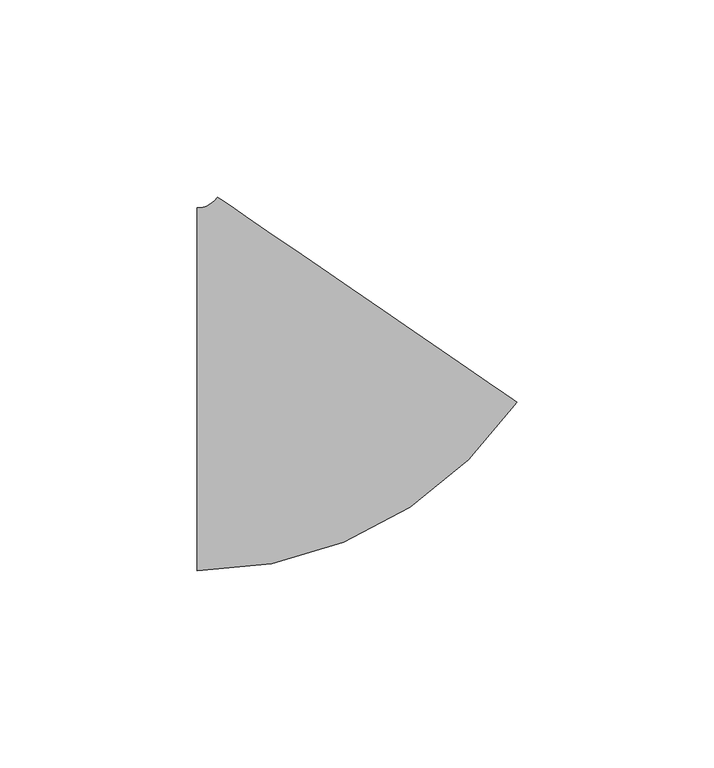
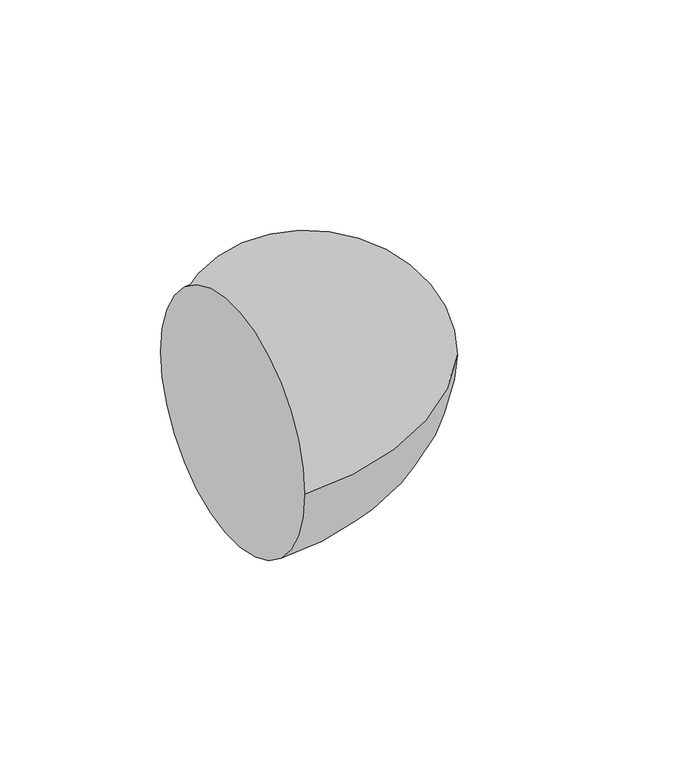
"""IFC4 building model written with IfcOpenShell, lengths in millimetres: pipe fitting geometry, M_Codo - Genérico : Estándar."""

from ifc_helpers import new_model, si_unit, point, frame, origin, place, context, project, spatial, circle_curve, ellipse_curve, trimmed, source, transform, mapped, element, save
from ifc_brep_helpers import plane_surface, revolved_surface, advanced_brep


def pipe_fitting_243cbe8d(model_context):
    return source(origin(), model_context, "Body", "AdvancedBrep", [
        advanced_brep(
        [(-27.6139621, -46.0375, 0.0), (-27.6139621, 46.0375, 0.0), (53.5864806, -3.2359549, 0.0), (-22.3752238, 48.79889, 0.0)],
        [
            (0, 1, circle_curve(frame((-27.6139621, 0.0, 0.0), z_axis=(-1.0, 0.0, 0.0), x_axis=(0.0, 1.0, 0.0)), 46.0375)),
            (1, 0, circle_curve(frame((-27.6139621, 0.0, 0.0), z_axis=(-1.0, 0.0, 0.0), x_axis=(0.0, 1.0, 0.0)), 46.0375)),
            (2, 3, circle_curve(frame((15.6056284, 22.7814676, 0.0), z_axis=(0.5651354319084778, 0.8249981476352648, 0.0), x_axis=(-0.8249981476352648, 0.5651354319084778, 0.0)), 46.0375)),
            (3, 2, circle_curve(frame((15.6056284, 22.7814676, 0.0), z_axis=(0.5651354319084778, 0.8249981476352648, 0.0), x_axis=(-0.8249981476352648, 0.5651354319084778, 0.0)), 46.0375)),
            (3, 1, circle_curve(frame((-27.6139621, 52.3875, 0.0), z_axis=(0.0, 0.0, -1.0), x_axis=(0.0, -1.0, 0.0)), 6.35)),
            (0, 2, circle_curve(frame((-27.6139621, 52.3875, 0.0), z_axis=(0.0, 0.0, 1.0), x_axis=(0.0, -1.0, 0.0)), 98.425)),
        ],
        [
            plane_surface(frame((-27.6139621, 0.0, 0.0), z_axis=(-1.0, 0.0, 0.0), x_axis=(0.0, 0.0, 1.0))),
            plane_surface(frame((15.6056284, 22.7814676, 0.0), z_axis=(0.5651354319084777, 0.824998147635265, 0.0), x_axis=(0.0, 0.0, 1.0))),
            revolved_surface(trimmed(ellipse_curve(frame((-27.6139621, 0.0, 0.0), z_axis=(-1.0, 0.0, 0.0), x_axis=(0.0, 1.0, 0.0)), 46.0375, 46.0375), [point((-27.6139621, -46.0375, 0.0))], [point((-27.6139621, 46.0375, 0.0))], True, "CARTESIAN"), (-27.6139621, 52.3875, 0.0), (0.0, 0.0, 1.0)),
            revolved_surface(trimmed(ellipse_curve(frame((-27.6139621, 0.0, 0.0), z_axis=(-1.0, 0.0, 0.0), x_axis=(0.0, 1.0, 0.0)), 46.0375, 46.0375), [point((-27.6139621, 46.0375, 0.0))], [point((-27.6139621, -46.0375, 0.0))], True, "CARTESIAN"), (-27.6139621, 52.3875, 0.0), (0.0, 0.0, 1.0)),
        ],
        [
            (0, [[1, 2]]),
            (1, [[3, 4]]),
            (2, [[5, -1, 6, -4]]),
            (3, [[-6, -2, -5, -3]]),
        ],
    ),
    ])


if __name__ == "__main__":
    model = new_model("IFC4")
    model_context = context("Model", 3, world=origin())
    ifc_project = project(units=[si_unit("LENGTHUNIT", "METRE", prefix="MILLI")], contexts=[model_context])
    site = spatial("IfcSite", under=ifc_project)
    building = spatial("IfcBuilding", under=site)
    placement = place(None, origin())
    pipe_fitting_shape = pipe_fitting_243cbe8d(model_context)
    element("IfcPipeFitting", 1, ObjectType="M_Codo - Genérico : Estándar", at=placement, inside=building, context=model_context, shape_type="MappedRepresentation", body=[
        mapped(pipe_fitting_shape, transform((0.0, 0.0, 0.0), x_axis=(1.0, 0.0, 0.0), y_axis=(0.0, 1.0, 0.0), z_axis=(0.0, 0.0, 1.0))),
    ])
    save(model, "model.ifc")
